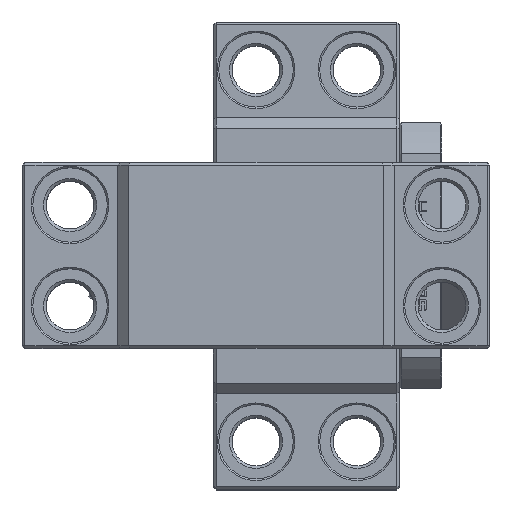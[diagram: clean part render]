
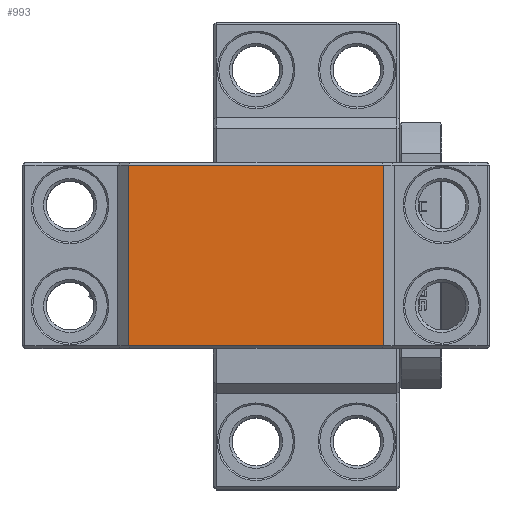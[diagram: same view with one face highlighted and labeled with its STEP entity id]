
A CAD part, top view. The second image highlights one B-rep face of the part: STEP entity #993.
In plain terms, the highlighted planar face has unit normal (0, 0, 1).
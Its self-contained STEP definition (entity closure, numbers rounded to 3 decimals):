
#993 = ADVANCED_FACE( '', ( #2349 ), #2350, .T. );
#2349 = FACE_OUTER_BOUND( '', #4017, .T. );
#2350 = PLANE( '', #4018 );
#4017 = EDGE_LOOP( '', ( #8247, #8248, #8249, #8250 ) );
#4018 = AXIS2_PLACEMENT_3D( '', #8251, #8252, #8253 );
#8247 = ORIENTED_EDGE( '', *, *, #10683, .T. );
#8248 = ORIENTED_EDGE( '', *, *, #11290, .T. );
#8249 = ORIENTED_EDGE( '', *, *, #11336, .T. );
#8250 = ORIENTED_EDGE( '', *, *, #10687, .T. );
#8251 = CARTESIAN_POINT( '', ( 0., -17.5, 60. ) );
#8252 = DIRECTION( '', ( 0., 0., 1. ) );
#8253 = DIRECTION( '', ( 1., 0., 0. ) );
#10683 = EDGE_CURVE( '', #12836, #12834, #12837, .T. );
#10687 = EDGE_CURVE( '', #12841, #12836, #12842, .T. );
#11290 = EDGE_CURVE( '', #12834, #13749, #13758, .T. );
#11336 = EDGE_CURVE( '', #13749, #12841, #13826, .T. );
#12834 = VERTEX_POINT( '', #16602 );
#12836 = VERTEX_POINT( '', #16605 );
#12837 = LINE( '', #16606, #16607 );
#12841 = VERTEX_POINT( '', #16614 );
#12842 = LINE( '', #16615, #16616 );
#13749 = VERTEX_POINT( '', #17950 );
#13758 = LINE( '', #17967, #17968 );
#13826 = LINE( '', #18069, #18070 );
#16602 = CARTESIAN_POINT( '', ( 24., 17., 60. ) );
#16605 = CARTESIAN_POINT( '', ( 24., -17., 60. ) );
#16606 = CARTESIAN_POINT( '', ( 24., -17.5, 60. ) );
#16607 = VECTOR( '', #20976, 1000. );
#16614 = CARTESIAN_POINT( '', ( -24., -17., 60. ) );
#16615 = CARTESIAN_POINT( '', ( 24., -17., 60. ) );
#16616 = VECTOR( '', #20980, 1000. );
#17950 = CARTESIAN_POINT( '', ( -24., 17., 60. ) );
#17967 = CARTESIAN_POINT( '', ( 0., 17., 60. ) );
#17968 = VECTOR( '', #21917, 1000. );
#18069 = CARTESIAN_POINT( '', ( -24., -17.5, 60. ) );
#18070 = VECTOR( '', #21987, 1000. );
#20976 = DIRECTION( '', ( 0., 1., 0. ) );
#20980 = DIRECTION( '', ( 1., 0., 0. ) );
#21917 = DIRECTION( '', ( -1., 0., 0. ) );
#21987 = DIRECTION( '', ( 0., -1., 0. ) );
